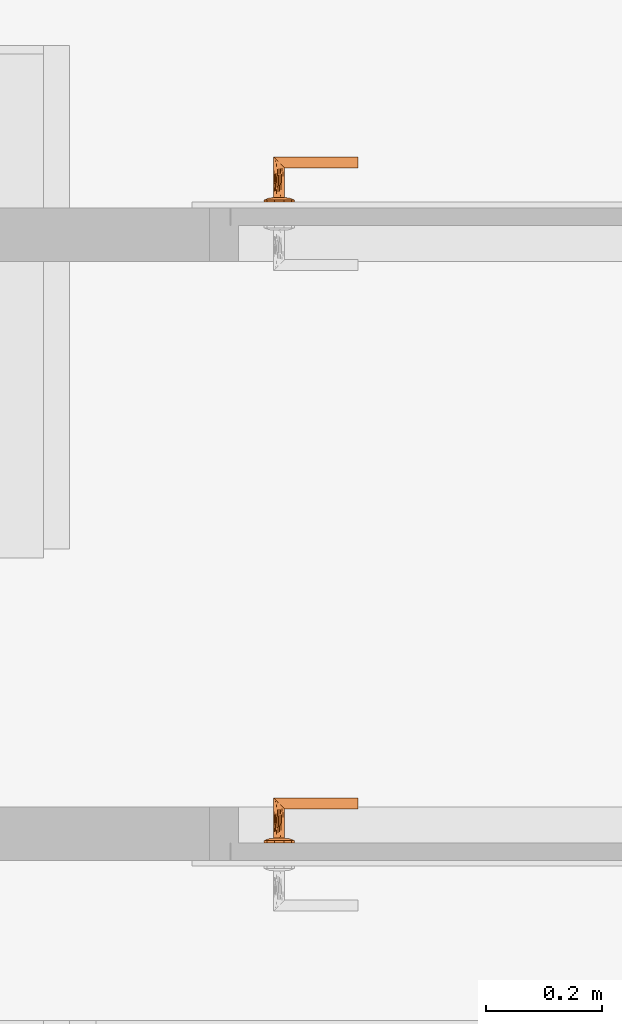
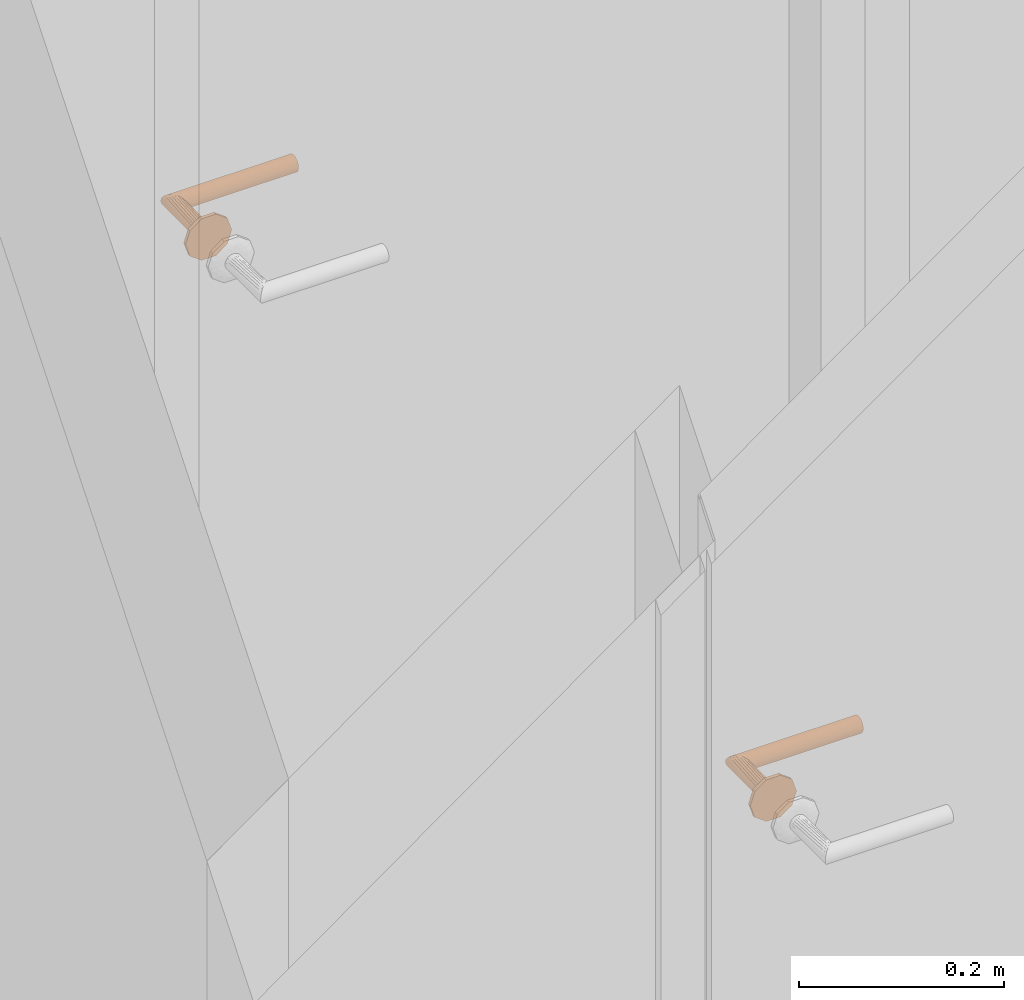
# One storey, part 52 of 57: 2 proxies.
"""IFC2X3 building model written with IfcOpenShell, lengths in millimetres."""

from ifc_helpers import new_model, entity, si_unit, converted_unit, direction, frame, origin, place, context, subcontext, project, spatial, faceted_brep, source, transform, mapped, material, type_object, type_shapes, element, save


model = new_model("IFC2X3")

# Units and contexts
model_context = context("Model", 3, precision=0.01, world=origin(), true_north=direction((6.123233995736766e-17, 1.0)))
plan_context = context("Plan", 3, precision=0.01, world=origin(), true_north=direction((6.123233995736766e-17, 1.0)))
body_context = subcontext(model_context, "Body", "Model", "MODEL_VIEW")
ifc_project = project(units=[si_unit("LENGTHUNIT", "METRE", prefix="MILLI"), converted_unit("PLANEANGLEUNIT", "DEGREE", entity("IfcPlaneAngleMeasure", 0.017453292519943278), si_unit("PLANEANGLEUNIT", "RADIAN"), dimensions=[0, 0, 0, 0, 0, 0, 0]), si_unit("AREAUNIT", "SQUARE_METRE")], contexts=[model_context, plan_context])

# Site, building, storey
site_placement = place(None, origin())
site = spatial("IfcSite", under=ifc_project, at=site_placement, Name="Default", CompositionType="ELEMENT")
building_placement = place(site_placement, origin())
building = spatial("IfcBuilding", under=site, at=building_placement, CompositionType="ELEMENT")
storey_placement = place(building_placement, frame((0.0, 0.0, 12811.000000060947)))
storey = spatial("IfcBuildingStorey", under=building, at=storey_placement, Name="5K", CompositionType="ELEMENT", Elevation=12811.000000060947)

# Proxy
ifc_material = material(Name="<Unnamed>")
building_element_proxy_type = type_object("IfcBuildingElementProxyType", Name="Door-handle_Lever_ABLOY_INOXI_3-19ss-002_RT:Default", PredefinedType="NOTDEFINED", material=ifc_material)
shared_shape = source(origin(), body_context, "Body", "Brep", [
    faceted_brep([(0.0, 0.0, 0.0), (21.034441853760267, -15.282416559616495, 0.0), (14.534441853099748, -20.00494299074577, 0.0), (8.034441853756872, -24.72746942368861, 0.0), (0.0, -24.72746942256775, 0.0), (23.51722092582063, -7.6412082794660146, 0.0), (26.0, 0.0, 0.0), (-8.034441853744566, -24.727469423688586, 0.0), (-14.534441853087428, -20.00494299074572, 0.0), (-21.03444185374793, -15.282416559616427, 0.0), (-23.517220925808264, -7.641208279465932, 0.0), (-26.0, 0.0, 0.0), (-23.517220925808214, 7.641208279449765, 0.0), (23.517220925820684, 7.641208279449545, 0.0), (21.034441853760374, 15.282416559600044, 0.0), (14.53444185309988, 20.00494299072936, 0.0), (8.034441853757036, 24.72746942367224, 0.0), (-21.034441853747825, 15.282416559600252, 0.0), (-14.53444185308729, 20.004942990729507, 0.0), (-8.0344418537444, 24.72746942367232, 0.0), (0.0, 24.72746942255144, 0.0), (0.0, 0.0, 8.0), (4.7500000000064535, -8.227241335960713, 8.0), (5.937500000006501, -6.170431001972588, 8.0), (7.125000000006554, -4.113620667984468, 8.0), (8.312500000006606, -2.0568103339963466, 8.0), (9.500000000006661, 0.0, 8.0), (8.312500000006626, 2.056810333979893, 8.0), (2.3750000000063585, -8.227241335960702, 8.0), (0.0, -8.227241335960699, 8.0), (-2.3749999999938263, -8.227241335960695, 8.0), (-4.749999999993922, -8.227241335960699, 8.0), (-5.937499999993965, -6.170431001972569, 8.0), (-7.124999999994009, -4.113620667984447, 8.0), (-8.312499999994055, -2.056810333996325, 8.0), (-9.499999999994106, 0.0, 8.0), (7.125000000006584, 4.113620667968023, 8.0), (5.937500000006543, 6.170431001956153, 8.0), (4.750000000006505, 8.227241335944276, 8.0), (2.3750000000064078, 8.22724133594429, 8.0), (-8.31249999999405, 2.0568103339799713, 8.0), (-7.12499999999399, 4.113620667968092, 8.0), (-5.9374999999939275, 6.170431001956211, 8.0), (-4.74999999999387, 8.227241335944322, 8.0), (0.0, 8.227241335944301, 8.0), (-2.374999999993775, 8.227241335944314, 8.0), (-22.488765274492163, -10.806469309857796, 4.030771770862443), (-16.663919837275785, -7.932665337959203, 6.877259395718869), (-20.643071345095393, -6.292822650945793, 5.929480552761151), (-12.50457926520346, -5.179566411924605, 7.774932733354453), (-16.764060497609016, -3.820257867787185, 7.1747985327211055), (-9.071726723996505, -10.311606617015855, 7.7520782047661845), (-11.963426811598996, -8.625290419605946, 7.618343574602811), (-11.979136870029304, -13.678312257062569, 6.945778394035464), (5.7585542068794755, -20.96753300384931, 5.871476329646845), (0.0, -24.72746942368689, 4.030771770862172), (8.03444185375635, -24.727469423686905, 4.030771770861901), (16.66391982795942, -7.932665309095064, 6.877259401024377), (22.488765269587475, -10.806469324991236, 4.03077177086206), (20.64307133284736, -6.29282258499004, 5.929480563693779), (14.534441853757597, -20.004942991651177, 4.030771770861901), (9.499431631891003, -18.64368355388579, 6.154325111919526), (-15.783149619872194, -11.991003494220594, 6.50080018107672), (-21.034441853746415, -15.282416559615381, 4.030771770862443), (-14.53444185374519, -20.00494299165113, 4.030771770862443), (-23.012042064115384, 0.0, 5.135401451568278), (-23.943088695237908, -6.330522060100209, 4.030771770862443), (11.96342678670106, -8.62529049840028, 7.618343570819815), (12.504579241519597, -5.179566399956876, 7.774932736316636), (16.764060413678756, -3.8202578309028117, 7.17479855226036), (15.783149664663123, -11.991003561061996, 6.50080015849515), (17.985351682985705, 0.0, 6.993737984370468), (23.012042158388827, 0.0, 5.135401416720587), (8.661516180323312, -10.478936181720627, 7.768126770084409), (-8.03444185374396, -24.727469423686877, 4.030771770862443), (-3.3573143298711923, -21.197247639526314, 5.971427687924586), (-9.941915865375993, -17.061976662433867, 6.522757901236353), (-5.973257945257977, -16.430139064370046, 7.110979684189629), (-7.711266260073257, -12.760344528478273, 7.594456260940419), (11.979136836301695, -13.678312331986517, 6.945778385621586), (7.511307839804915, -13.358932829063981, 7.529187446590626), (5.953298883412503, -16.50608604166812, 7.096344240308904), (-1.5654593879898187, -15.307443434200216, 7.519134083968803), (-7.784980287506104, -20.476295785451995, 5.812837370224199), (2.8135289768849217, -17.76392260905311, 6.993737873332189), (-17.98535168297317, 0.0, 6.993737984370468), (-26.0, 0.0, 4.030771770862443), (-23.51722092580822, -7.641208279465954, 4.030771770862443), (23.943088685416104, -6.33052209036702, 4.030771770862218), (24.308823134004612, -5.204907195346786, 4.030771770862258), (26.0, 0.0, 4.030771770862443), (21.03444185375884, -15.282416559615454, 4.030771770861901), (22.617646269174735, -10.40981439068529, 4.030771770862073), (22.488765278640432, 10.806469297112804, 4.030771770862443), (16.66391984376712, 7.932665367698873, 6.877259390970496), (20.643071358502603, 6.292822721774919, 5.929480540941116), (12.504579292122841, 5.179566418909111, 7.774932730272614), (16.764060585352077, 3.8202579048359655, 7.174798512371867), (9.07172672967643, 10.31160659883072, 7.752078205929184), (11.963426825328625, 8.62529034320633, 7.618343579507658), (11.979136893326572, 13.67831220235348, 6.9457784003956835), (-5.758554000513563, 20.96753314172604, 5.8714763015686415), (0.0, 24.72746942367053, 4.030771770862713), (-8.03444185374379, 24.72746942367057, 4.030771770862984), (-16.663919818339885, 7.932665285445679, 6.877259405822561), (-22.48876526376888, 10.806469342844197, 4.030771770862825), (-20.643071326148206, 6.2928225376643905, 5.929480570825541), (-14.534441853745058, 20.004942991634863, 4.030771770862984), (-9.499431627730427, 18.643683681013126, 6.154325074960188), (15.783149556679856, 11.991003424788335, 6.5008002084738), (21.03444185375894, 15.282416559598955, 4.030771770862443), (14.534441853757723, 20.004942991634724, 4.030771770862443), (23.943088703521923, 6.330522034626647, 4.030771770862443), (-11.96342675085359, 8.625290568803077, 7.618343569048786), (-12.504579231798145, 5.179566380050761, 7.77493273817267), (-16.764060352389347, 3.820257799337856, 7.174798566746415), (-15.78314967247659, 11.991003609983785, 6.500800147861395), (-8.661516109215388, 10.478936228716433, 7.768126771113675), (8.034441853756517, 24.727469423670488, 4.030771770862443), (3.3573144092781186, 21.197247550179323, 5.971427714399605), (9.941915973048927, 17.061976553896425, 6.522757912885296), (5.9732581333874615, 16.430139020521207, 7.110979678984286), (7.711266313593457, 12.760344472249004, 7.5944562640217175), (-11.979136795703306, 13.678312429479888, 6.945778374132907), (-7.511307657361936, 13.358932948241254, 7.5291874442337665), (-5.9532988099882, 16.50608628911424, 7.096344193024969), (1.5654596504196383, 15.3074431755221, 7.519134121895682), (7.784980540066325, 20.476295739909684, 5.812837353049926), (-2.81352881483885, 17.76392263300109, 6.993737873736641), (23.51722092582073, 7.6412082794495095, 4.030771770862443), (-23.94308867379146, 6.330522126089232, 4.030771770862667), (-24.308823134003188, 5.20490719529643, 4.030771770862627), (-21.034441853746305, 15.282416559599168, 4.030771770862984), (-22.617646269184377, 10.409814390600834, 4.0307717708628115)], [[[0, 1, 2]], [[0, 2, 3]], [[0, 3, 4]], [[0, 5, 1]], [[0, 6, 5]], [[0, 4, 7]], [[0, 7, 8]], [[0, 8, 9]], [[0, 9, 10]], [[0, 10, 11]], [[0, 11, 12]], [[0, 13, 6]], [[0, 14, 13]], [[0, 15, 14]], [[0, 16, 15]], [[0, 12, 17]], [[0, 17, 18]], [[0, 18, 19]], [[0, 19, 20]], [[0, 20, 16]], [[21, 22, 23]], [[21, 23, 24]], [[21, 24, 25]], [[21, 25, 26]], [[21, 26, 27]], [[21, 28, 22]], [[21, 29, 28]], [[21, 30, 29]], [[21, 31, 30]], [[21, 32, 31]], [[21, 33, 32]], [[21, 34, 33]], [[21, 35, 34]], [[21, 27, 36]], [[21, 36, 37]], [[21, 37, 38]], [[21, 38, 39]], [[21, 40, 35]], [[21, 41, 40]], [[21, 42, 41]], [[21, 43, 42]], [[21, 39, 44]], [[21, 44, 45]], [[21, 45, 43]], [[46, 47, 48]], [[47, 49, 50]], [[49, 33, 34]], [[51, 52, 53]], [[49, 52, 33]], [[48, 47, 50]], [[54, 55, 56]], [[57, 58, 59]], [[56, 60, 61]], [[62, 63, 64]], [[65, 66, 48]], [[67, 57, 68]], [[68, 69, 25]], [[57, 67, 70]], [[69, 26, 25]], [[62, 53, 52]], [[71, 69, 72]], [[67, 23, 73]], [[74, 55, 75]], [[76, 77, 78]], [[79, 60, 70]], [[69, 59, 72]], [[80, 81, 61]], [[77, 30, 78]], [[82, 30, 77]], [[28, 80, 22]], [[77, 83, 75]], [[75, 82, 77]], [[55, 84, 75]], [[85, 50, 35]], [[24, 68, 25]], [[82, 84, 29]], [[84, 82, 75]], [[31, 78, 30]], [[82, 29, 30]], [[34, 35, 50]], [[52, 49, 47]], [[62, 52, 47]], [[34, 50, 49]], [[53, 78, 51]], [[32, 33, 52]], [[85, 65, 50]], [[66, 65, 86]], [[67, 68, 24]], [[77, 76, 83]], [[65, 48, 50]], [[63, 62, 46]], [[48, 66, 87, 46]], [[62, 47, 46]], [[69, 68, 57]], [[80, 73, 22]], [[70, 67, 79]], [[67, 24, 23]], [[72, 88, 89, 90]], [[69, 71, 26]], [[59, 69, 57]], [[61, 60, 79]], [[62, 64, 53]], [[91, 58, 70]], [[72, 59, 88]], [[57, 70, 58]], [[59, 58, 92]], [[80, 61, 79]], [[91, 70, 60]], [[61, 81, 54]], [[73, 80, 79]], [[28, 84, 81]], [[67, 73, 79]], [[29, 84, 28]], [[22, 73, 23]], [[51, 31, 32]], [[76, 78, 53]], [[53, 64, 76]], [[83, 64, 74]], [[64, 83, 76]], [[75, 83, 74]], [[31, 51, 78]], [[52, 51, 32]], [[28, 81, 80]], [[54, 81, 84]], [[55, 54, 84]], [[61, 54, 56]], [[93, 94, 95]], [[94, 96, 97]], [[96, 36, 27]], [[98, 99, 100]], [[96, 99, 36]], [[95, 94, 97]], [[101, 102, 103]], [[104, 105, 106]], [[103, 107, 108]], [[109, 110, 111]], [[72, 112, 95]], [[113, 104, 114]], [[114, 115, 40]], [[104, 113, 116]], [[115, 35, 40]], [[109, 100, 99]], [[85, 115, 65]], [[113, 42, 117]], [[118, 102, 119]], [[120, 121, 122]], [[123, 107, 116]], [[115, 106, 65]], [[124, 125, 108]], [[121, 39, 122]], [[126, 39, 121]], [[45, 124, 43]], [[121, 127, 119]], [[119, 126, 121]], [[102, 128, 119]], [[71, 97, 26]], [[41, 114, 40]], [[126, 128, 44]], [[128, 126, 119]], [[38, 122, 39]], [[126, 44, 39]], [[27, 26, 97]], [[99, 96, 94]], [[109, 99, 94]], [[27, 97, 96]], [[100, 122, 98]], [[37, 36, 99]], [[71, 72, 97]], [[112, 72, 90]], [[113, 114, 41]], [[121, 120, 127]], [[72, 95, 97]], [[110, 109, 93]], [[95, 112, 129, 93]], [[109, 94, 93]], [[115, 114, 104]], [[124, 117, 43]], [[116, 113, 123]], [[113, 41, 42]], [[65, 130, 131, 86]], [[115, 85, 35]], [[106, 115, 104]], [[108, 107, 123]], [[109, 111, 100]], [[132, 105, 116]], [[65, 106, 130]], [[104, 116, 105]], [[106, 105, 133]], [[124, 108, 123]], [[132, 116, 107]], [[108, 125, 101]], [[117, 124, 123]], [[45, 128, 125]], [[113, 117, 123]], [[44, 128, 45]], [[43, 117, 42]], [[98, 38, 37]], [[120, 122, 100]], [[100, 111, 120]], [[127, 111, 118]], [[111, 127, 120]], [[119, 127, 118]], [[38, 98, 122]], [[99, 98, 37]], [[45, 125, 124]], [[101, 125, 128]], [[102, 101, 128]], [[108, 101, 103]], [[7, 74, 64, 63, 9, 8]], [[10, 9, 63, 46, 87, 66, 86, 11]], [[6, 90, 89, 88, 92, 1, 5]], [[1, 58, 91]], [[74, 7, 4, 3, 56, 55]], [[60, 56, 3, 2, 1, 91]], [[1, 92, 58]], [[14, 110, 93, 129, 112, 90, 6, 13]], [[111, 110, 14, 15, 16, 118]], [[11, 86, 131, 130, 133, 17, 12]], [[17, 105, 132]], [[118, 16, 20, 19, 103, 102]], [[107, 103, 19, 18, 17, 132]], [[17, 133, 105]], [[59, 92, 88]], [[106, 133, 130]]]),
    faceted_brep([(4.7499999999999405, -8.22724133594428, 8.0), (2.4587809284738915, -9.176295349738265, 8.0), (0.0, -9.499999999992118, 8.0), (-2.4587809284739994, -9.176295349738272, 8.0), (-4.7500000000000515, -8.227241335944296, 8.0), (-6.717514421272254, -6.717514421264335, 8.0), (-8.227241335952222, -4.74999999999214, 8.0), (-9.176295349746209, -2.4587809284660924, 8.0), (-9.500000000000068, 0.0, 8.0), (-9.176295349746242, 2.458780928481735, 8.0), (-8.227241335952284, 4.750000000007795, 8.0), (-6.717514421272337, 6.717514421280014, 8.0), (-4.750000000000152, 8.227241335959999, 8.0), (-2.4587809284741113, 9.176295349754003, 8.0), (0.0, 9.500000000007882, 8.0), (2.4587809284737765, 9.176295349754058, 8.0), (4.7499999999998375, 8.227241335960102, 8.0), (6.717514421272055, 6.717514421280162, 8.0), (8.22724133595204, 4.75000000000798, 8.0), (9.17629534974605, 2.458780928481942, 8.0), (9.499999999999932, 0.0, 8.0), (9.17629534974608, -2.458780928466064, 8.0), (8.227241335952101, -4.749999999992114, 8.0), (6.717514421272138, -6.7175144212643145, 8.0), (-8.227241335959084, 4.7499999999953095, 59.772758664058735), (-6.717514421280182, 6.7175144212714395, 61.282485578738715), (-9.176295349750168, 2.458780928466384, 58.82370465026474), (-4.750000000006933, 8.227241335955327, 63.25000000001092), (-2.4587809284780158, 9.176295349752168, 65.54121907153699), (-9.500000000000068, 0.0, 58.50000000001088), (0.0, 9.50000000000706, 68.0), (4.750000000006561, 8.227241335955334, 72.75000000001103), (2.4587809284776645, 9.17629534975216, 70.45878092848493), (6.717514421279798, 6.7175144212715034, 74.71751442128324), (8.22724133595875, 4.749999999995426, 76.22724133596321), (9.17629534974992, 2.458780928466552, 77.17629534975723), (9.499999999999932, 0.0, 77.50000000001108), (9.176295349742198, -2.4587809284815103, 77.1762953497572), (8.227241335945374, -4.750000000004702, 76.22724133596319), (6.7175144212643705, -6.717514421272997, 74.7175144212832), (4.749999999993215, -8.227241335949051, 72.75000000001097), (2.4587809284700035, -9.17629534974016, 70.45878092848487), (0.0, -9.49999999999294, 68.0), (-2.4587809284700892, -9.176295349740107, 65.54121907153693), (-4.749999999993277, -8.227241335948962, 63.250000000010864), (-6.717514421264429, -6.717514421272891, 61.282485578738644), (-9.176295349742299, -2.458780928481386, 58.8237046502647), (-8.227241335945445, -4.750000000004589, 59.77275866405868), (-135.0, -9.176295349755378, 70.4587809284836), (-135.0, -8.227241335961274, 72.75000000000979), (-135.0, -6.717514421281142, 74.71751442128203), (-135.0, -4.750000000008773, 76.22724133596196), (-135.0, -2.4587809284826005, 77.17629534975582), (-135.0, 0.0, 77.5000000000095), (-135.0, 2.4587809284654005, 77.17629534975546), (-135.0, 4.749999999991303, 76.22724133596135), (-135.0, 6.717514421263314, 74.71751442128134), (-135.0, 8.227241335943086, 72.75000000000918), (-135.0, 9.17629534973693, 70.45878092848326), (-135.0, 9.499999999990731, 68.0), (-135.0, 9.17629534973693, 65.54121907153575), (-135.0, 8.227241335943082, 63.250000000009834), (-135.0, 6.717514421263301, 61.28248557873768), (-135.0, 4.749999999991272, 59.772758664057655), (-135.0, 2.458780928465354, 58.823704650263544), (-135.0, 0.0, 58.50000000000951), (-135.0, -2.458780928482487, 58.82370465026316), (-135.0, -4.750000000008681, 59.772758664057), (-135.0, -6.7175144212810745, 61.28248557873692), (-135.0, -8.227241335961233, 63.25000000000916), (-135.0, -9.176295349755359, 65.54121907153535), (-135.0, -9.500000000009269, 68.0)], [[[0, 1, 2, 3, 4, 5, 6, 7, 8, 9, 10, 11, 12, 13, 14, 15, 16, 17, 18, 19, 20, 21, 22, 23]], [[24, 25, 11, 10]], [[26, 24, 10, 9]], [[14, 27, 28]], [[13, 27, 14]], [[25, 27, 13]], [[29, 26, 9, 8]], [[12, 11, 25]], [[25, 13, 12]], [[28, 30, 15]], [[31, 17, 32]], [[33, 18, 31]], [[19, 34, 35]], [[33, 34, 19]], [[20, 19, 35, 36]], [[16, 15, 30]], [[14, 28, 15]], [[19, 18, 33]], [[17, 31, 18]], [[17, 16, 32]], [[30, 32, 16]], [[20, 36, 37, 21]], [[38, 21, 37]], [[22, 39, 40]], [[38, 39, 21]], [[23, 40, 41]], [[39, 22, 21]], [[1, 42, 43]], [[42, 1, 0]], [[23, 41, 0]], [[23, 22, 40]], [[41, 42, 0]], [[44, 45, 3]], [[43, 44, 2]], [[46, 29, 8, 7]], [[47, 46, 7, 6]], [[45, 47, 6, 5]], [[45, 4, 3]], [[3, 2, 44]], [[5, 4, 45]], [[43, 2, 1]], [[48, 49, 50, 51, 52, 53, 54, 55, 56, 57, 58, 59, 60, 61, 62, 63, 64, 65, 66, 67, 68, 69, 70, 71]], [[64, 63, 24, 26]], [[65, 64, 26, 29]], [[61, 60, 28, 27]], [[62, 61, 27, 25]], [[63, 62, 25, 24]], [[59, 30, 28, 60]], [[57, 56, 33, 31]], [[58, 57, 31, 32]], [[54, 53, 36, 35]], [[55, 54, 35, 34]], [[56, 55, 34, 33]], [[32, 30, 59, 58]], [[52, 51, 38, 37]], [[53, 52, 37, 36]], [[49, 48, 41, 40]], [[50, 49, 40, 39]], [[51, 50, 39, 38]], [[42, 41, 48, 71]], [[69, 68, 45, 44]], [[70, 69, 44, 43]], [[66, 65, 29, 46]], [[67, 66, 46, 47]], [[68, 67, 47, 45]], [[42, 71, 70, 43]]]),
])
type_shapes(building_element_proxy_type, [shared_shape])
proxy_1_placement = place(storey_placement, frame((2450.0, 10731.0, 1000.0), z_axis=(0.0, 1.0, 0.0), x_axis=(-1.0, 0.0, 0.0)))
element("IfcBuildingElementProxy", 1, at=proxy_1_placement, inside=storey, type_object=building_element_proxy_type, material=ifc_material, Name="Door-handle_Lever_ABLOY_INOXI_3-19ss-002_RT:Default", ObjectType="Door-handle_Lever_ABLOY_INOXI_3-19ss-002_RT:Default", context=body_context, shape_type="MappedRepresentation", body=[
    mapped(shared_shape, transform((0.0, 0.0, 0.0), scale=1.0)),
])

# Space
space_placement = place(storey_placement, origin())
space = spatial("IfcSpace", under=storey, at=space_placement, Name="5-12.13", CompositionType="ELEMENT", InteriorOrExteriorSpace="INTERNAL")

# Proxy
proxy_2_placement = place(space_placement, frame((2450.0, 11832.0, 1000.0), z_axis=(0.0, 1.0, 0.0), x_axis=(-1.0, 0.0, 0.0)))
element("IfcBuildingElementProxy", 2, at=proxy_2_placement, inside=space, type_object=building_element_proxy_type, material=ifc_material, Name="Door-handle_Lever_ABLOY_INOXI_3-19ss-002_RT:Default", ObjectType="Door-handle_Lever_ABLOY_INOXI_3-19ss-002_RT:Default", context=body_context, shape_type="MappedRepresentation", body=[
    mapped(shared_shape, transform((0.0, 0.0, 0.0), scale=1.0)),
])

save(model, "model.ifc")
